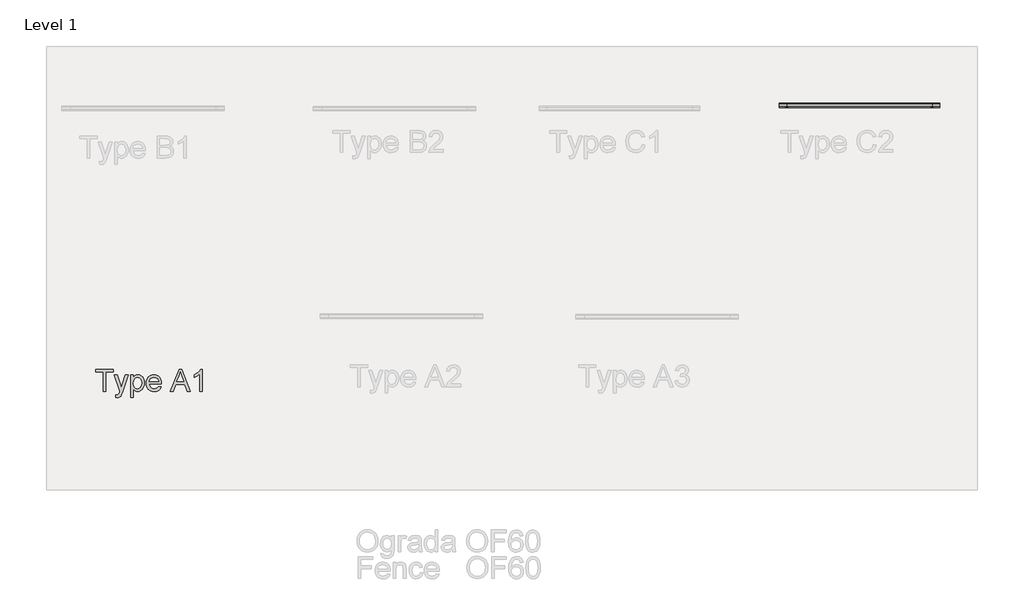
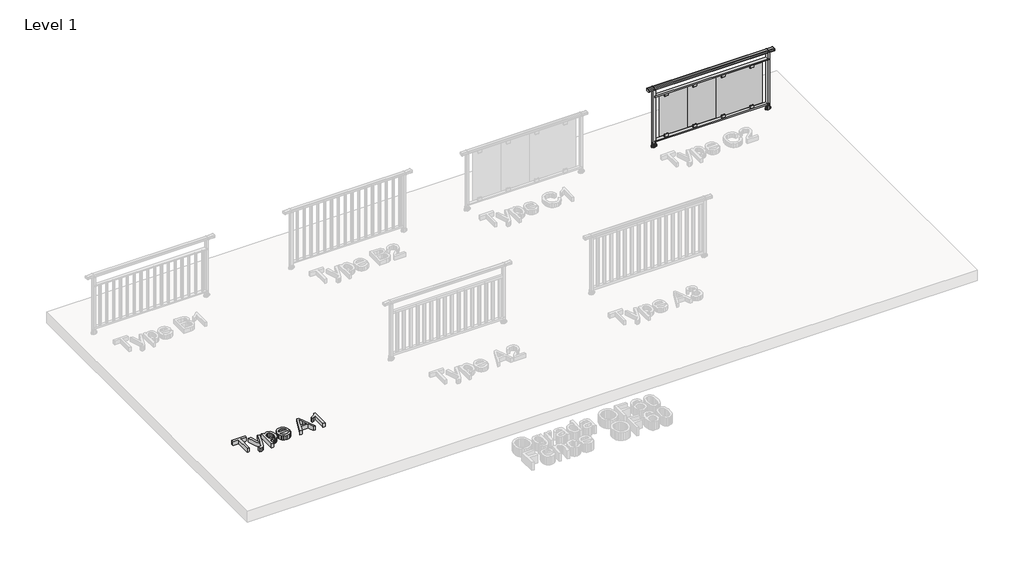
# One storey, part 6 of 9: 1 proxy, 1 railing.
"""IFC4 building model written with IfcOpenShell, lengths in millimetres."""

from ifc_helpers import new_model, si_unit, point, frame, frame_2d, origin, origin_with_axes, place, context, project, spatial, polyline, circle_curve, trimmed, segment, composite_curve, outline, extrude, element, save
from ifc_brep_helpers import plane_surface, cylinder_surface, advanced_brep

model = new_model("IFC4")

# Units and contexts
model_context = context("Model", 3, world=origin())
ifc_project = project(units=[si_unit("LENGTHUNIT", "METRE", prefix="MILLI")], contexts=[model_context])

# Site, building, storey
site = spatial("IfcSite", under=ifc_project)
building = spatial("IfcBuilding", under=site)
storey = spatial("IfcBuildingStorey", under=building, Name="Level 1", Elevation=0.0)

# Proxy
placement = place(None, origin())
element("IfcBuildingElementProxy", 1, Name="600mm Arial", ObjectType="600mm Arial", at=placement, inside=storey, context=model_context, shape_type="SweptSolid", body=[
    extrude(outline(polyline([(-2682.6430729, -1971.913771), (-2682.6430729, -1708.2159568), (-2781.5297532, -1708.2159568), (-2781.5297532, -1670.5448405), (-2546.0852763, -1670.5448405), (-2546.0852763, -1708.2159568), (-2644.9719566, -1708.2159568), (-2644.9719566, -1971.913771), (-2682.6430729, -1971.913771)])), origin_with_axes(), (0.0, 0.0, 1.0), 75.0),
    extrude(outline(polyline([(-2508.41416, -2056.6737826), (-2513.1230495, -2020.4006179), (-2493.9931858, -2023.7115559), (-2476.1141208, -2019.5544893), (-2465.1512373, -2007.9662065), (-2454.8505415, -1980.227904), (-2451.9074855, -1971.1044306), (-2531.9586077, -1750.5959627), (-2492.2273522, -1750.5959627), (-2449.7737699, -1873.468549), (-2434.9849137, -1922.6175836), (-2420.1960575, -1879.2075082), (-2376.5652529, -1750.5959627), (-2337.128303, -1750.5959627), (-2414.1627928, -1977.2112717), (-2434.1755733, -2026.3603062), (-2444.4210869, -2042.0504733), (-2456.0277639, -2052.9213863), (-2469.510639, -2059.2673507), (-2485.3847471, -2061.3826722), (-2508.41416, -2056.6737826)])), origin_with_axes(), (0.0, 0.0, 1.0), 75.0),
    extrude(outline(polyline([(-2305.9319098, -2056.6737826), (-2305.9319098, -1750.5959627), (-2268.2607935, -1750.5959627), (-2268.2607935, -1787.531315), (-2255.9735349, -1769.3119592), (-2242.2147483, -1756.2981336), (-2226.1750933, -1748.4898382), (-2207.0452295, -1745.8870731), (-2181.5694014, -1749.5291049), (-2159.2941466, -1760.4552001), (-2141.1575642, -1778.0031713), (-2128.0977534, -1801.5108308), (-2120.2066846, -1829.2675273), (-2117.5763283, -1859.5626096), (-2120.5469754, -1891.7798754), (-2129.4589167, -1920.5942326), (-2144.0270438, -1944.5433505), (-2163.9662479, -1962.1648981), (-2187.1887988, -1973.0082199), (-2211.6069663, -1976.6226605), (-2228.9250112, -1974.2038364), (-2244.385252, -1966.947364), (-2257.6198068, -1955.9936776), (-2268.2607935, -1942.4832113), (-2268.2607935, -2056.6737826), (-2305.9319098, -2056.6737826)]), holes=[polyline([(-2268.2607935, -1863.0207004), (-2264.1865004, -1896.7922675), (-2251.9636211, -1920.4102916), (-2233.9282063, -1934.316231), (-2212.4163067, -1938.9515442), (-2190.5549191, -1934.1506841), (-2172.0596518, -1919.748104), (-2159.4504964, -1895.2655573), (-2155.2474446, -1860.2247972), (-2159.3493289, -1826.6371711), (-2171.6549816, -1802.6880532), (-2189.6628053, -1788.3406554), (-2210.8712023, -1783.5581894), (-2232.1623727, -1788.644158), (-2250.8599752, -1803.9020638), (-2263.9105889, -1828.8536601), (-2268.2607935, -1863.0207004)])]), origin_with_axes(), (0.0, 0.0, 1.0), 75.0),
    extrude(outline(polyline([(-1920.2444261, -1905.9893174), (-1883.3090738, -1910.698207), (-1896.6172049, -1938.5284799), (-1917.8531931, -1959.3322067), (-1946.5387917, -1972.300047), (-1982.1957541, -1976.6226605), (-2005.5700563, -1974.7579586), (-2026.3967758, -1969.163853), (-2044.6759124, -1959.8403437), (-2060.4074662, -1946.7874307), (-2073.0580084, -1930.3683974), (-2082.0941099, -1910.9465273), (-2087.5157708, -1888.5218204), (-2089.3229911, -1863.0942768), (-2087.4973767, -1836.8045097), (-2082.0205335, -1813.6325425), (-2072.8924615, -1793.5783753), (-2060.1131607, -1776.6420079), (-2044.4229936, -1763.1867239), (-2026.5623227, -1753.5758068), (-2006.5311481, -1747.8092565), (-1984.3294696, -1745.8870731), (-1962.8428619, -1747.804658), (-1943.4117947, -1753.5574127), (-1926.0362682, -1763.1453372), (-1910.7162824, -1776.5684315), (-1898.2105938, -1793.4680107), (-1889.2779591, -1813.4853897), (-1883.9183783, -1836.6205687), (-1882.1318514, -1862.8735476), (-1882.3525806, -1873.0270906), (-2051.6518748, -1873.0270906), (-2045.1311664, -1901.2252456), (-2029.9836252, -1921.955396), (-2008.1222377, -1934.7025071), (-1981.4599901, -1938.9515442), (-1961.4104213, -1936.9833755), (-1944.5246378, -1931.0788695), (-1930.8026393, -1920.8701441), (-1920.2444261, -1905.9893174)]), holes=[polyline([(-2051.6518748, -1835.3559743), (-1919.8029677, -1835.3559743), (-1924.8981333, -1815.4535584), (-1934.8861295, -1801.2165252), (-1956.8486846, -1787.9727734), (-1984.4766224, -1783.5581894), (-2009.8696772, -1787.0806595), (-2030.866542, -1797.6480698), (-2045.4622602, -1814.1199862), (-2051.6518748, -1835.3559743)])]), origin_with_axes(), (0.0, 0.0, 1.0), 75.0),
    extrude(outline(polyline([(-1757.1255494, -1971.913771), (-1636.828137, -1670.5448405), (-1604.748827, -1670.5448405), (-1484.4514146, -1971.913771), (-1524.2562465, -1971.913771), (-1558.7635776, -1877.7359802), (-1682.8869628, -1877.7359802), (-1717.3207175, -1971.913771), (-1757.1255494, -1971.913771)]), holes=[polyline([(-1669.0545998, -1840.0648639), (-1572.5223642, -1840.0648639), (-1599.6720555, -1765.9734301), (-1620.788482, -1708.2159568), (-1639.5504638, -1759.4987069), (-1669.0545998, -1840.0648639)])]), origin_with_axes(), (0.0, 0.0, 1.0), 75.0),
    extrude(outline(polyline([(-1317.0651068, -1971.913771), (-1354.7362231, -1971.913771), (-1354.7362231, -1737.0579052), (-1390.4207766, -1762.4785511), (-1430.0784557, -1781.4980502), (-1430.0784557, -1745.8870731), (-1400.4915463, -1729.7922358), (-1374.8593682, -1710.643978), (-1354.6534497, -1690.2817095), (-1341.3453185, -1670.5448405), (-1317.0651068, -1670.5448405), (-1317.0651068, -1971.913771)])), origin_with_axes(), (0.0, 0.0, 1.0), 75.0),
])

# Railing
element("IfcRailing", 2, ObjectType="OF-60 TYPE C2", at=placement, inside=storey, context=model_context, shape_type="SolidModel", body=[
    advanced_brep(
    [(6610.6870433, 1985.1760424, 1100.0), (6610.6870433, 1993.1760424, 1092.0), (6610.6870433, 1993.1760424, 1064.0), (6610.6870433, 1989.1760424, 1060.0), (6610.6870433, 1937.1760424, 1060.0), (6610.6870433, 1933.1760424, 1064.0), (6610.6870433, 1933.1760424, 1092.0), (6610.6870433, 1941.1760424, 1100.0), (6715.1850499, 1985.1760424, 1100.0), (6715.1850499, 1993.1760424, 1092.0), (6715.1850499, 1993.1760424, 1064.0), (6715.1850499, 1989.1760424, 1060.0), (6715.1850499, 1937.1760424, 1060.0), (6715.1850499, 1933.1760424, 1064.0), (6715.1850499, 1933.1760424, 1092.0), (6715.1850499, 1941.1760424, 1100.0), (8715.1850499, 1985.1760424, 1100.0), (8715.1850499, 1993.1760424, 1092.0), (8715.1850499, 1993.1760424, 1064.0), (8715.1850499, 1989.1760424, 1060.0), (8715.1850499, 1937.1760424, 1060.0), (8715.1850499, 1933.1760424, 1064.0), (8715.1850499, 1933.1760424, 1092.0), (8715.1850499, 1941.1760424, 1100.0), (8819.6830566, 1985.1760424, 1100.0), (8819.6830566, 1941.1760424, 1100.0), (8819.6830566, 1933.1760424, 1092.0), (8819.6830566, 1933.1760424, 1064.0), (8819.6830566, 1937.1760424, 1060.0), (8819.6830566, 1989.1760424, 1060.0), (8819.6830566, 1993.1760424, 1064.0), (8819.6830566, 1993.1760424, 1092.0)],
    [
        (0, 1, circle_curve(frame((6610.6870433, 1985.1760424, 1092.0), z_axis=(-1.0, 0.0, 0.0), x_axis=(0.0, 1.0, 0.0)), 8.0)),
        (1, 2),
        (2, 3, circle_curve(frame((6610.6870433, 1989.1760424, 1064.0), z_axis=(-1.0, 0.0, 0.0), x_axis=(0.0, 0.0, -1.0)), 4.0)),
        (3, 4),
        (4, 5, circle_curve(frame((6610.6870433, 1937.1760424, 1064.0), z_axis=(-1.0, 0.0, 0.0), x_axis=(0.0, -1.0, 0.0)), 4.0)),
        (5, 6),
        (6, 7, circle_curve(frame((6610.6870433, 1941.1760424, 1092.0), z_axis=(-1.0, 0.0, 0.0), x_axis=(0.0, 0.0, 1.0)), 8.0)),
        (7, 0),
        (0, 8),
        (8, 9, circle_curve(frame((6715.1850499, 1985.1760424, 1092.0), z_axis=(-1.0, 0.0, 0.0), x_axis=(0.0, 1.0, 0.0)), 8.0)),
        (9, 1),
        (9, 10),
        (10, 2),
        (10, 11, circle_curve(frame((6715.1850499, 1989.1760424, 1064.0), z_axis=(-1.0, 0.0, 0.0), x_axis=(0.0, 0.0, -1.0)), 4.0)),
        (11, 3),
        (11, 12),
        (12, 4),
        (12, 13, circle_curve(frame((6715.1850499, 1937.1760424, 1064.0), z_axis=(-1.0, 0.0, 0.0), x_axis=(0.0, -1.0, 0.0)), 4.0)),
        (13, 5),
        (13, 14),
        (14, 6),
        (14, 15, circle_curve(frame((6715.1850499, 1941.1760424, 1092.0), z_axis=(-1.0, 0.0, 0.0), x_axis=(0.0, 0.0, 1.0)), 8.0)),
        (15, 7),
        (15, 8),
        (8, 16),
        (16, 17, circle_curve(frame((8715.1850499, 1985.1760424, 1092.0), z_axis=(-1.0, 0.0, 0.0), x_axis=(0.0, 1.0, 0.0)), 8.0)),
        (17, 9),
        (17, 18),
        (18, 10),
        (18, 19, circle_curve(frame((8715.1850499, 1989.1760424, 1064.0), z_axis=(-1.0, 0.0, 0.0), x_axis=(0.0, 0.0, -1.0)), 4.0)),
        (19, 11),
        (19, 20),
        (20, 12),
        (20, 21, circle_curve(frame((8715.1850499, 1937.1760424, 1064.0), z_axis=(-1.0, 0.0, 0.0), x_axis=(0.0, -1.0, 0.0)), 4.0)),
        (21, 13),
        (21, 22),
        (22, 14),
        (22, 23, circle_curve(frame((8715.1850499, 1941.1760424, 1092.0), z_axis=(-1.0, 0.0, 0.0), x_axis=(0.0, 0.0, 1.0)), 8.0)),
        (23, 15),
        (23, 16),
        (24, 25),
        (25, 26, circle_curve(frame((8819.6830566, 1941.1760424, 1092.0), z_axis=(1.0, 0.0, 0.0), x_axis=(0.0, 0.0, 1.0)), 8.0)),
        (26, 27),
        (27, 28, circle_curve(frame((8819.6830566, 1937.1760424, 1064.0), z_axis=(1.0, 0.0, 0.0), x_axis=(0.0, -1.0, 0.0)), 4.0)),
        (28, 29),
        (29, 30, circle_curve(frame((8819.6830566, 1989.1760424, 1064.0), z_axis=(1.0, 0.0, 0.0), x_axis=(0.0, 0.0, -1.0)), 4.0)),
        (30, 31),
        (31, 24, circle_curve(frame((8819.6830566, 1985.1760424, 1092.0), z_axis=(1.0, 0.0, 0.0), x_axis=(0.0, 1.0, 0.0)), 8.0)),
        (16, 24),
        (31, 17),
        (30, 18),
        (29, 19),
        (28, 20),
        (27, 21),
        (26, 22),
        (25, 23),
    ],
    [
        plane_surface(frame((6610.6870433, 1993.1760424, 1100.0), z_axis=(-1.0, 0.0, 0.0), x_axis=(0.0, 1.0, 0.0))),
        cylinder_surface(frame((6610.6870433, 1985.1760424, 1092.0), z_axis=(-1.0, 0.0, 0.0), x_axis=(0.0, 1.0, 0.0)), 8.0),
        plane_surface(frame((6610.6870433, 1993.1760424, 1092.0), z_axis=(0.0, 1.0, 0.0), x_axis=(1.0, 0.0, 0.0))),
        cylinder_surface(frame((6610.6870433, 1989.1760424, 1064.0), z_axis=(-1.0, 0.0, 0.0), x_axis=(0.0, 0.0, -1.0)), 4.0),
        plane_surface(frame((6610.6870433, 1989.1760424, 1060.0), z_axis=(0.0, 0.0, -1.0), x_axis=(1.0, 0.0, 0.0))),
        cylinder_surface(frame((6610.6870433, 1937.1760424, 1064.0), z_axis=(-1.0, 0.0, 0.0), x_axis=(0.0, -1.0, 0.0)), 4.0),
        plane_surface(frame((6610.6870433, 1933.1760424, 1064.0), z_axis=(0.0, -1.0, 0.0), x_axis=(1.0, 0.0, 0.0))),
        cylinder_surface(frame((6610.6870433, 1941.1760424, 1092.0), z_axis=(-1.0, 0.0, 0.0), x_axis=(0.0, 0.0, 1.0)), 8.0),
        plane_surface(frame((6610.6870433, 1941.1760424, 1100.0), z_axis=(0.0, 0.0, 1.0), x_axis=(1.0, 0.0, 0.0))),
        cylinder_surface(frame((6715.1850499, 1985.1760424, 1092.0), z_axis=(-1.0, 0.0, 0.0), x_axis=(0.0, 1.0, 0.0)), 8.0),
        plane_surface(frame((6715.1850499, 1993.1760424, 1092.0), z_axis=(0.0, 1.0, 0.0), x_axis=(1.0, 0.0, 0.0))),
        cylinder_surface(frame((6715.1850499, 1989.1760424, 1064.0), z_axis=(-1.0, 0.0, 0.0), x_axis=(0.0, 0.0, -1.0)), 4.0),
        plane_surface(frame((6715.1850499, 1989.1760424, 1060.0), z_axis=(0.0, 0.0, -1.0), x_axis=(1.0, 0.0, 0.0))),
        cylinder_surface(frame((6715.1850499, 1937.1760424, 1064.0), z_axis=(-1.0, 0.0, 0.0), x_axis=(0.0, -1.0, 0.0)), 4.0),
        plane_surface(frame((6715.1850499, 1933.1760424, 1064.0), z_axis=(0.0, -1.0, 0.0), x_axis=(1.0, 0.0, 0.0))),
        cylinder_surface(frame((6715.1850499, 1941.1760424, 1092.0), z_axis=(-1.0, 0.0, 0.0), x_axis=(0.0, 0.0, 1.0)), 8.0),
        plane_surface(frame((6715.1850499, 1941.1760424, 1100.0), z_axis=(0.0, 0.0, 1.0), x_axis=(1.0, 0.0, 0.0))),
        plane_surface(frame((8819.6830566, 1993.1760424, 1100.0), z_axis=(1.0, 0.0, 0.0), x_axis=(0.0, 1.0, 0.0))),
        cylinder_surface(frame((8715.1850499, 1985.1760424, 1092.0), z_axis=(-1.0, 0.0, 0.0), x_axis=(0.0, 1.0, 0.0)), 8.0),
        plane_surface(frame((8715.1850499, 1993.1760424, 1092.0), z_axis=(0.0, 1.0, 0.0), x_axis=(1.0, 0.0, 0.0))),
        cylinder_surface(frame((8715.1850499, 1989.1760424, 1064.0), z_axis=(-1.0, 0.0, 0.0), x_axis=(0.0, 0.0, -1.0)), 4.0),
        plane_surface(frame((8715.1850499, 1989.1760424, 1060.0), z_axis=(0.0, 0.0, -1.0), x_axis=(1.0, 0.0, 0.0))),
        cylinder_surface(frame((8715.1850499, 1937.1760424, 1064.0), z_axis=(-1.0, 0.0, 0.0), x_axis=(0.0, -1.0, 0.0)), 4.0),
        plane_surface(frame((8715.1850499, 1933.1760424, 1064.0), z_axis=(0.0, -1.0, 0.0), x_axis=(1.0, 0.0, 0.0))),
        cylinder_surface(frame((8715.1850499, 1941.1760424, 1092.0), z_axis=(-1.0, 0.0, 0.0), x_axis=(0.0, 0.0, 1.0)), 8.0),
        plane_surface(frame((8715.1850499, 1941.1760424, 1100.0), z_axis=(0.0, 0.0, 1.0), x_axis=(1.0, 0.0, 0.0))),
    ],
    [
        (0, [[1, 2, 3, 4, 5, 6, 7, 8]]),
        (1, [[-1, 9, 10, 11]]),
        (2, [[-2, -11, 12, 13]]),
        (3, [[-3, -13, 14, 15]]),
        (4, [[-4, -15, 16, 17]]),
        (5, [[-5, -17, 18, 19]]),
        (6, [[-6, -19, 20, 21]]),
        (7, [[-7, -21, 22, 23]]),
        (8, [[-8, -23, 24, -9]]),
        (9, [[-10, 25, 26, 27]]),
        (10, [[-12, -27, 28, 29]]),
        (11, [[-14, -29, 30, 31]]),
        (12, [[-16, -31, 32, 33]]),
        (13, [[-18, -33, 34, 35]]),
        (14, [[-20, -35, 36, 37]]),
        (15, [[-22, -37, 38, 39]]),
        (16, [[-24, -39, 40, -25]]),
        (17, [[41, 42, 43, 44, 45, 46, 47, 48]]),
        (18, [[-26, 49, -48, 50]]),
        (19, [[-28, -50, -47, 51]]),
        (20, [[-30, -51, -46, 52]]),
        (21, [[-32, -52, -45, 53]]),
        (22, [[-34, -53, -44, 54]]),
        (23, [[-36, -54, -43, 55]]),
        (24, [[-38, -55, -42, 56]]),
        (25, [[-40, -56, -41, -49]]),
    ],
),
    extrude(outline(polyline([(6715.1850499, 1932.1760424), (6715.1850499, 1983.1760424), (8715.1850499, 1983.1760424), (8715.1850499, 1932.1760424), (6715.1850499, 1932.1760424)])), frame((0.0, 0.0, 98.9061283), z_axis=(0.0, 0.0, 1.0), x_axis=(1.0, 0.0, 0.0)), (0.0, 0.0, 1.0), 21.0938717),
    extrude(outline(polyline([(6715.1850499, 1932.1760424), (6715.1850499, 1983.1760424), (8715.1850499, 1983.1760424), (8715.1850499, 1932.1760424), (6715.1850499, 1932.1760424)])), frame((0.0, 0.0, 928.9061283), z_axis=(0.0, 0.0, 1.0), x_axis=(1.0, 0.0, 0.0)), (0.0, 0.0, 1.0), 21.0938717),
    extrude(outline(polyline([(1969.1916042, 174.9998492), (1972.1760424, 170.9372051), (1972.1760424, 120.0), (1943.1760424, 120.0), (1943.1760424, 170.936253), (1946.160462, 174.9990479), (1949.6760424, 174.9990479), (1949.6760424, 148.3802548), (1952.0260424, 144.9990479), (1963.3273125, 144.9990479), (1965.6760581, 148.3784501), (1965.6760581, 174.9998492), (1969.1916042, 174.9998492)])), frame((8397.0032317, 0.0, 0.0), z_axis=(1.0, 0.0, 0.0), x_axis=(0.0, 1.0, 0.0)), (0.0, 0.0, 1.0), 60.0),
    extrude(outline(polyline([(1969.1916042, 873.9062791), (1965.6760581, 873.9062791), (1965.6760581, 900.5276783), (1963.3273125, 903.9070804), (1952.0260424, 903.9070804), (1949.6760424, 900.5258735), (1949.6760424, 873.9070804), (1946.160462, 873.9070804), (1943.1760424, 877.9698753), (1943.1760424, 928.9061283), (1972.1760424, 928.9061283), (1972.1760424, 877.9689233), (1969.1916042, 873.9062791)])), frame((8397.0032317, 0.0, 0.0), z_axis=(1.0, 0.0, 0.0), x_axis=(0.0, 1.0, 0.0)), (0.0, 0.0, 1.0), 60.0),
    extrude(outline(polyline([(7815.1850499, 1959.9008525), (7815.1850499, 1964.9008525), (8615.1850499, 1964.9008525), (8615.1850499, 1959.9008525), (7815.1850499, 1959.9008525)])), frame((0.0, 0.0, 147.0), z_axis=(0.0, 0.0, 1.0), x_axis=(1.0, 0.0, 0.0)), (0.0, 0.0, 1.0), 758.0),
    extrude(outline(polyline([(1969.1916042, 174.9998492), (1972.1760424, 170.9372051), (1972.1760424, 120.0), (1943.1760424, 120.0), (1943.1760424, 170.936253), (1946.160462, 174.9990479), (1949.6760424, 174.9990479), (1949.6760424, 148.3802548), (1952.0260424, 144.9990479), (1963.3273125, 144.9990479), (1965.6760581, 148.3784501), (1965.6760581, 174.9998492), (1969.1916042, 174.9998492)])), frame((7897.0032317, 0.0, 0.0), z_axis=(1.0, 0.0, 0.0), x_axis=(0.0, 1.0, 0.0)), (0.0, 0.0, 1.0), 60.0),
    extrude(outline(polyline([(1969.1916042, 873.9062791), (1965.6760581, 873.9062791), (1965.6760581, 900.5276783), (1963.3273125, 903.9070804), (1952.0260424, 903.9070804), (1949.6760424, 900.5258735), (1949.6760424, 873.9070804), (1946.160462, 873.9070804), (1943.1760424, 877.9698753), (1943.1760424, 928.9061283), (1972.1760424, 928.9061283), (1972.1760424, 877.9689233), (1969.1916042, 873.9062791)])), frame((7897.0032317, 0.0, 0.0), z_axis=(1.0, 0.0, 0.0), x_axis=(0.0, 1.0, 0.0)), (0.0, 0.0, 1.0), 60.0),
    extrude(outline(polyline([(7315.1850499, 1959.9008525), (7315.1850499, 1964.9008525), (8115.1850499, 1964.9008525), (8115.1850499, 1959.9008525), (7315.1850499, 1959.9008525)])), frame((0.0, 0.0, 147.0), z_axis=(0.0, 0.0, 1.0), x_axis=(1.0, 0.0, 0.0)), (0.0, 0.0, 1.0), 758.0),
    extrude(outline(polyline([(1969.1916042, 174.9998492), (1972.1760424, 170.9372051), (1972.1760424, 120.0), (1943.1760424, 120.0), (1943.1760424, 170.936253), (1946.160462, 174.9990479), (1949.6760424, 174.9990479), (1949.6760424, 148.3802548), (1952.0260424, 144.9990479), (1963.3273125, 144.9990479), (1965.6760581, 148.3784501), (1965.6760581, 174.9998492), (1969.1916042, 174.9998492)])), frame((7397.0032317, 0.0, 0.0), z_axis=(1.0, 0.0, 0.0), x_axis=(0.0, 1.0, 0.0)), (0.0, 0.0, 1.0), 60.0),
    extrude(outline(polyline([(1969.1916042, 873.9062791), (1965.6760581, 873.9062791), (1965.6760581, 900.5276783), (1963.3273125, 903.9070804), (1952.0260424, 903.9070804), (1949.6760424, 900.5258735), (1949.6760424, 873.9070804), (1946.160462, 873.9070804), (1943.1760424, 877.9698753), (1943.1760424, 928.9061283), (1972.1760424, 928.9061283), (1972.1760424, 877.9689233), (1969.1916042, 873.9062791)])), frame((7397.0032317, 0.0, 0.0), z_axis=(1.0, 0.0, 0.0), x_axis=(0.0, 1.0, 0.0)), (0.0, 0.0, 1.0), 60.0),
    extrude(outline(polyline([(6815.1850499, 1959.9008525), (6815.1850499, 1964.9008525), (7615.1850499, 1964.9008525), (7615.1850499, 1959.9008525), (6815.1850499, 1959.9008525)])), frame((0.0, 0.0, 147.0), z_axis=(0.0, 0.0, 1.0), x_axis=(1.0, 0.0, 0.0)), (0.0, 0.0, 1.0), 758.0),
    extrude(outline(polyline([(1969.1916042, 174.9998492), (1972.1760424, 170.9372051), (1972.1760424, 120.0), (1943.1760424, 120.0), (1943.1760424, 170.936253), (1946.160462, 174.9990479), (1949.6760424, 174.9990479), (1949.6760424, 148.3802548), (1952.0260424, 144.9990479), (1963.3273125, 144.9990479), (1965.6760581, 148.3784501), (1965.6760581, 174.9998492), (1969.1916042, 174.9998492)])), frame((6897.0032317, 0.0, 0.0), z_axis=(1.0, 0.0, 0.0), x_axis=(0.0, 1.0, 0.0)), (0.0, 0.0, 1.0), 60.0),
    extrude(outline(polyline([(1969.1916042, 873.9062791), (1965.6760581, 873.9062791), (1965.6760581, 900.5276783), (1963.3273125, 903.9070804), (1952.0260424, 903.9070804), (1949.6760424, 900.5258735), (1949.6760424, 873.9070804), (1946.160462, 873.9070804), (1943.1760424, 877.9698753), (1943.1760424, 928.9061283), (1972.1760424, 928.9061283), (1972.1760424, 877.9689233), (1969.1916042, 873.9062791)])), frame((6897.0032317, 0.0, 0.0), z_axis=(1.0, 0.0, 0.0), x_axis=(0.0, 1.0, 0.0)), (0.0, 0.0, 1.0), 60.0),
    extrude(outline(composite_curve([segment(trimmed(circle_curve(frame_2d((8734.0660573, 1982.9737892)), 1.2), [point((8734.2155498, 1984.1644411))], [point((8735.2623011, 1983.0686621))], False, "CARTESIAN"), True, "CONTINUOUS"), segment(polyline([(8735.2623011, 1983.0686621), (8736.2570433, 1970.5260424)]), True, "CONTINUOUS"), segment(trimmed(circle_curve(frame_2d((8500.9651556, 1958.1760424)), 235.6157782), [point((8736.2570433, 1970.5260424))], [point((8736.2570433, 1945.8260424))], False, "CARTESIAN"), True, "CONTINUOUS"), segment(polyline([(8736.2570433, 1945.8260424), (8735.2623011, 1933.2834227)]), True, "CONTINUOUS"), segment(trimmed(circle_curve(frame_2d((8734.0660573, 1933.3782956)), 1.2), [point((8735.2623011, 1933.2834227))], [point((8734.2155498, 1932.1876437))], False, "CARTESIAN"), True, "CONTINUOUS"), segment(polyline([(8734.2155498, 1932.1876437), (8720.1850499, 1930.4260424), (8710.1850499, 1930.4260424), (8696.1545501, 1932.1876437)]), True, "CONTINUOUS"), segment(trimmed(circle_curve(frame_2d((8696.3040425, 1933.3782956)), 1.2), [point((8696.1545501, 1932.1876437))], [point((8695.1077988, 1933.2834227))], False, "CARTESIAN"), True, "CONTINUOUS"), segment(polyline([(8695.1077988, 1933.2834227), (8694.1130566, 1945.8260424)]), True, "CONTINUOUS"), segment(trimmed(circle_curve(frame_2d((8929.4049443, 1958.1760424)), 235.6157782), [point((8694.1130566, 1945.8260424))], [point((8694.1130566, 1970.5260424))], False, "CARTESIAN"), True, "CONTINUOUS"), segment(polyline([(8694.1130566, 1970.5260424), (8695.1077988, 1983.0686621)]), True, "CONTINUOUS"), segment(trimmed(circle_curve(frame_2d((8696.3040425, 1982.9737892)), 1.2), [point((8695.1077988, 1983.0686621))], [point((8696.1545501, 1984.1644411))], False, "CARTESIAN"), True, "CONTINUOUS"), segment(polyline([(8696.1545501, 1984.1644411), (8710.1850499, 1985.9260424), (8720.1850499, 1985.9260424), (8734.2155498, 1984.1644411)]), True, "CONTINUOUS")], self_intersect=False), holes=[polyline([(8725.6850499, 1937.6760424), (8725.6850499, 1978.6760424), (8704.6850499, 1978.6760424), (8704.6850499, 1937.6760424), (8725.6850499, 1937.6760424)])]), origin_with_axes(), (0.0, 0.0, 1.0), 71.6433898),
    extrude(outline(composite_curve([segment(polyline([(8764.7292496, 1964.0260424), (8764.7292496, 1952.3260424)]), True, "CONTINUOUS"), segment(trimmed(circle_curve(frame_2d((8758.2292496, 1952.3260424)), 6.5), [point((8764.7292496, 1952.3260424))], [point((8758.2292496, 1945.8260424))], False, "CARTESIAN"), True, "CONTINUOUS"), segment(polyline([(8758.2292496, 1945.8260424), (8680.2252629, 1945.8260424)]), True, "CONTINUOUS"), segment(trimmed(circle_curve(frame_2d((8680.2252629, 1952.3260424)), 6.5), [point((8680.2252629, 1945.8260424))], [point((8673.7252629, 1952.3260424))], False, "CARTESIAN"), True, "CONTINUOUS"), segment(polyline([(8673.7252629, 1952.3260424), (8673.7252629, 1964.0260424)]), True, "CONTINUOUS"), segment(trimmed(circle_curve(frame_2d((8680.2252629, 1964.0260424)), 6.5), [point((8673.7252629, 1964.0260424))], [point((8680.2252629, 1970.5260424))], False, "CARTESIAN"), True, "CONTINUOUS"), segment(polyline([(8680.2252629, 1970.5260424), (8758.2292496, 1970.5260424)]), True, "CONTINUOUS"), segment(trimmed(circle_curve(frame_2d((8758.2292496, 1964.0260424)), 6.5), [point((8758.2292496, 1970.5260424))], [point((8764.7292496, 1964.0260424))], False, "CARTESIAN"), True, "CONTINUOUS")], self_intersect=False), holes=[composite_curve([segment(polyline([(8750.8851554, 1964.089053), (8748.477168, 1962.6041275)]), True, "CONTINUOUS"), segment(trimmed(circle_curve(frame_2d((8750.7992496, 1958.1760424)), 5.0), [point((8748.477168, 1962.6041275))], [point((8748.477168, 1953.7479573))], True, "CARTESIAN"), True, "CONTINUOUS"), segment(polyline([(8748.477168, 1953.7479573), (8750.8851554, 1952.2630318)]), True, "CONTINUOUS"), segment(trimmed(circle_curve(frame_2d((8753.7992496, 1956.3260424)), 5.0), [point((8750.8851554, 1952.2630318))], [point((8758.7992496, 1956.3260424))], True, "CARTESIAN"), True, "CONTINUOUS"), segment(polyline([(8758.7992496, 1956.3260424), (8758.7992496, 1960.0260424)]), True, "CONTINUOUS"), segment(trimmed(circle_curve(frame_2d((8753.7992496, 1960.0260424)), 5.0), [point((8758.7992496, 1960.0260424))], [point((8750.8851554, 1964.089053))], True, "CARTESIAN"), True, "CONTINUOUS")], self_intersect=False), composite_curve([segment(polyline([(8679.6552629, 1960.0260424), (8679.6552629, 1956.3260424)]), True, "CONTINUOUS"), segment(trimmed(circle_curve(frame_2d((8684.6552629, 1956.3260424)), 5.0), [point((8679.6552629, 1956.3260424))], [point((8687.569357, 1952.2630318))], True, "CARTESIAN"), True, "CONTINUOUS"), segment(polyline([(8687.569357, 1952.2630318), (8689.9773444, 1953.7479573)]), True, "CONTINUOUS"), segment(trimmed(circle_curve(frame_2d((8687.6552629, 1958.1760424)), 5.0), [point((8689.9773444, 1953.7479573))], [point((8689.9773444, 1962.6041275))], True, "CARTESIAN"), True, "CONTINUOUS"), segment(polyline([(8689.9773444, 1962.6041275), (8687.569357, 1964.089053)]), True, "CONTINUOUS"), segment(trimmed(circle_curve(frame_2d((8684.6552629, 1960.0260424)), 5.0), [point((8687.569357, 1964.089053))], [point((8679.6552629, 1960.0260424))], True, "CARTESIAN"), True, "CONTINUOUS")], self_intersect=False)]), origin_with_axes(), (0.0, 0.0, 1.0), 32.0),
    extrude(outline(polyline([(8696.1850499, 1933.1760424), (8696.1850499, 1983.1760424), (8734.1850499, 1983.1760424), (8734.1850499, 1933.1760424), (8696.1850499, 1933.1760424)])), origin_with_axes(), (0.0, 0.0, 1.0), 1060.0),
    extrude(outline(composite_curve([segment(trimmed(circle_curve(frame_2d((6734.0660573, 1982.9737892)), 1.2), [point((6734.2155498, 1984.1644411))], [point((6735.2623011, 1983.0686621))], False, "CARTESIAN"), True, "CONTINUOUS"), segment(polyline([(6735.2623011, 1983.0686621), (6736.2570433, 1970.5260424)]), True, "CONTINUOUS"), segment(trimmed(circle_curve(frame_2d((6500.9651556, 1958.1760424)), 235.6157782), [point((6736.2570433, 1970.5260424))], [point((6736.2570433, 1945.8260424))], False, "CARTESIAN"), True, "CONTINUOUS"), segment(polyline([(6736.2570433, 1945.8260424), (6735.2623011, 1933.2834227)]), True, "CONTINUOUS"), segment(trimmed(circle_curve(frame_2d((6734.0660573, 1933.3782956)), 1.2), [point((6735.2623011, 1933.2834227))], [point((6734.2155498, 1932.1876437))], False, "CARTESIAN"), True, "CONTINUOUS"), segment(polyline([(6734.2155498, 1932.1876437), (6720.1850499, 1930.4260424), (6710.1850499, 1930.4260424), (6696.1545501, 1932.1876437)]), True, "CONTINUOUS"), segment(trimmed(circle_curve(frame_2d((6696.3040425, 1933.3782956)), 1.2), [point((6696.1545501, 1932.1876437))], [point((6695.1077988, 1933.2834227))], False, "CARTESIAN"), True, "CONTINUOUS"), segment(polyline([(6695.1077988, 1933.2834227), (6694.1130566, 1945.8260424)]), True, "CONTINUOUS"), segment(trimmed(circle_curve(frame_2d((6929.4049443, 1958.1760424)), 235.6157782), [point((6694.1130566, 1945.8260424))], [point((6694.1130566, 1970.5260424))], False, "CARTESIAN"), True, "CONTINUOUS"), segment(polyline([(6694.1130566, 1970.5260424), (6695.1077988, 1983.0686621)]), True, "CONTINUOUS"), segment(trimmed(circle_curve(frame_2d((6696.3040425, 1982.9737892)), 1.2), [point((6695.1077988, 1983.0686621))], [point((6696.1545501, 1984.1644411))], False, "CARTESIAN"), True, "CONTINUOUS"), segment(polyline([(6696.1545501, 1984.1644411), (6710.1850499, 1985.9260424), (6720.1850499, 1985.9260424), (6734.2155498, 1984.1644411)]), True, "CONTINUOUS")], self_intersect=False), holes=[polyline([(6725.6850499, 1937.6760424), (6725.6850499, 1978.6760424), (6704.6850499, 1978.6760424), (6704.6850499, 1937.6760424), (6725.6850499, 1937.6760424)])]), origin_with_axes(), (0.0, 0.0, 1.0), 71.6433898),
    extrude(outline(composite_curve([segment(polyline([(6764.7292496, 1964.0260424), (6764.7292496, 1952.3260424)]), True, "CONTINUOUS"), segment(trimmed(circle_curve(frame_2d((6758.2292496, 1952.3260424)), 6.5), [point((6764.7292496, 1952.3260424))], [point((6758.2292496, 1945.8260424))], False, "CARTESIAN"), True, "CONTINUOUS"), segment(polyline([(6758.2292496, 1945.8260424), (6680.2252629, 1945.8260424)]), True, "CONTINUOUS"), segment(trimmed(circle_curve(frame_2d((6680.2252629, 1952.3260424)), 6.5), [point((6680.2252629, 1945.8260424))], [point((6673.7252629, 1952.3260424))], False, "CARTESIAN"), True, "CONTINUOUS"), segment(polyline([(6673.7252629, 1952.3260424), (6673.7252629, 1964.0260424)]), True, "CONTINUOUS"), segment(trimmed(circle_curve(frame_2d((6680.2252629, 1964.0260424)), 6.5), [point((6673.7252629, 1964.0260424))], [point((6680.2252629, 1970.5260424))], False, "CARTESIAN"), True, "CONTINUOUS"), segment(polyline([(6680.2252629, 1970.5260424), (6758.2292496, 1970.5260424)]), True, "CONTINUOUS"), segment(trimmed(circle_curve(frame_2d((6758.2292496, 1964.0260424)), 6.5), [point((6758.2292496, 1970.5260424))], [point((6764.7292496, 1964.0260424))], False, "CARTESIAN"), True, "CONTINUOUS")], self_intersect=False), holes=[composite_curve([segment(polyline([(6750.8851554, 1964.089053), (6748.477168, 1962.6041275)]), True, "CONTINUOUS"), segment(trimmed(circle_curve(frame_2d((6750.7992496, 1958.1760424)), 5.0), [point((6748.477168, 1962.6041275))], [point((6748.477168, 1953.7479573))], True, "CARTESIAN"), True, "CONTINUOUS"), segment(polyline([(6748.477168, 1953.7479573), (6750.8851554, 1952.2630318)]), True, "CONTINUOUS"), segment(trimmed(circle_curve(frame_2d((6753.7992496, 1956.3260424)), 5.0), [point((6750.8851554, 1952.2630318))], [point((6758.7992496, 1956.3260424))], True, "CARTESIAN"), True, "CONTINUOUS"), segment(polyline([(6758.7992496, 1956.3260424), (6758.7992496, 1960.0260424)]), True, "CONTINUOUS"), segment(trimmed(circle_curve(frame_2d((6753.7992496, 1960.0260424)), 5.0), [point((6758.7992496, 1960.0260424))], [point((6750.8851554, 1964.089053))], True, "CARTESIAN"), True, "CONTINUOUS")], self_intersect=False), composite_curve([segment(polyline([(6679.6552629, 1960.0260424), (6679.6552629, 1956.3260424)]), True, "CONTINUOUS"), segment(trimmed(circle_curve(frame_2d((6684.6552629, 1956.3260424)), 5.0), [point((6679.6552629, 1956.3260424))], [point((6687.569357, 1952.2630318))], True, "CARTESIAN"), True, "CONTINUOUS"), segment(polyline([(6687.569357, 1952.2630318), (6689.9773444, 1953.7479573)]), True, "CONTINUOUS"), segment(trimmed(circle_curve(frame_2d((6687.6552629, 1958.1760424)), 5.0), [point((6689.9773444, 1953.7479573))], [point((6689.9773444, 1962.6041275))], True, "CARTESIAN"), True, "CONTINUOUS"), segment(polyline([(6689.9773444, 1962.6041275), (6687.569357, 1964.089053)]), True, "CONTINUOUS"), segment(trimmed(circle_curve(frame_2d((6684.6552629, 1960.0260424)), 5.0), [point((6687.569357, 1964.089053))], [point((6679.6552629, 1960.0260424))], True, "CARTESIAN"), True, "CONTINUOUS")], self_intersect=False)]), origin_with_axes(), (0.0, 0.0, 1.0), 32.0),
    extrude(outline(polyline([(6696.1850499, 1933.1760424), (6696.1850499, 1983.1760424), (6734.1850499, 1983.1760424), (6734.1850499, 1933.1760424), (6696.1850499, 1933.1760424)])), origin_with_axes(), (0.0, 0.0, 1.0), 1060.0),
])

save(model, "model.ifc")
